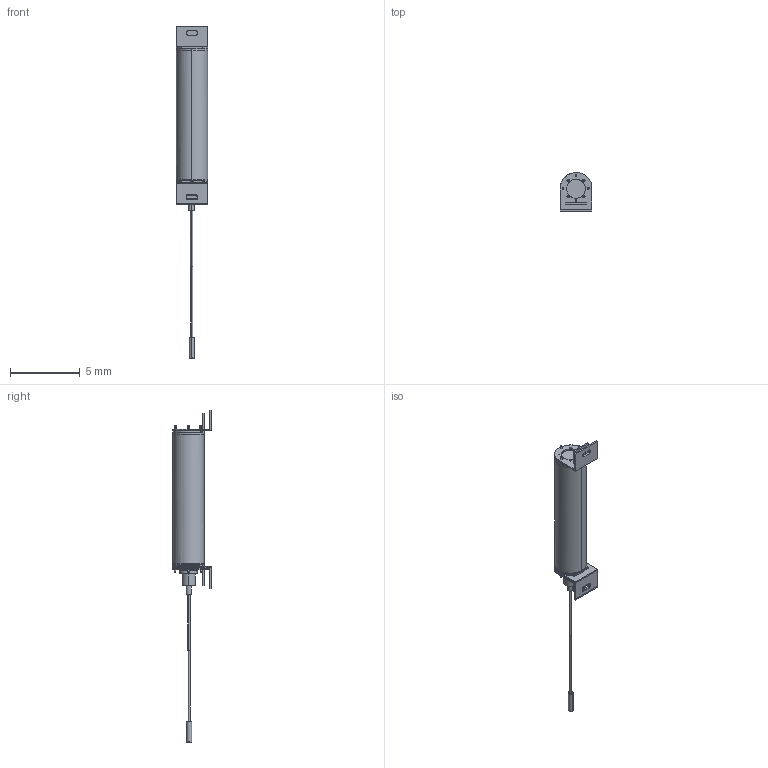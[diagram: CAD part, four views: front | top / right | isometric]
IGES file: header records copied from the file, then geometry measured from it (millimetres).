
Global section: file name: C:\ACADFILES\SS_SMB_PLEXTUBE_PYLON.igs; native system: AutoCAD-18.2s (LMS Tech) (Microsoft Windows NT Version 6.1 (x86)); preprocessor: Autodesk IGES Translator Mechanical Desktop 2011 (Feb 18 2011) from Autodesk, Inc.; date: 20120506.220430; units: millimetre
Bounding box: 2.26 x 2.75 x 23.81 mm (x, y, z)
Surface area: 413.8 mm2 (no closed solid volume)
Topology: 0 solids, 0 shells, 1800 faces, 9327 edges, 9502 vertices
Faces by surface type: bspline 1800
